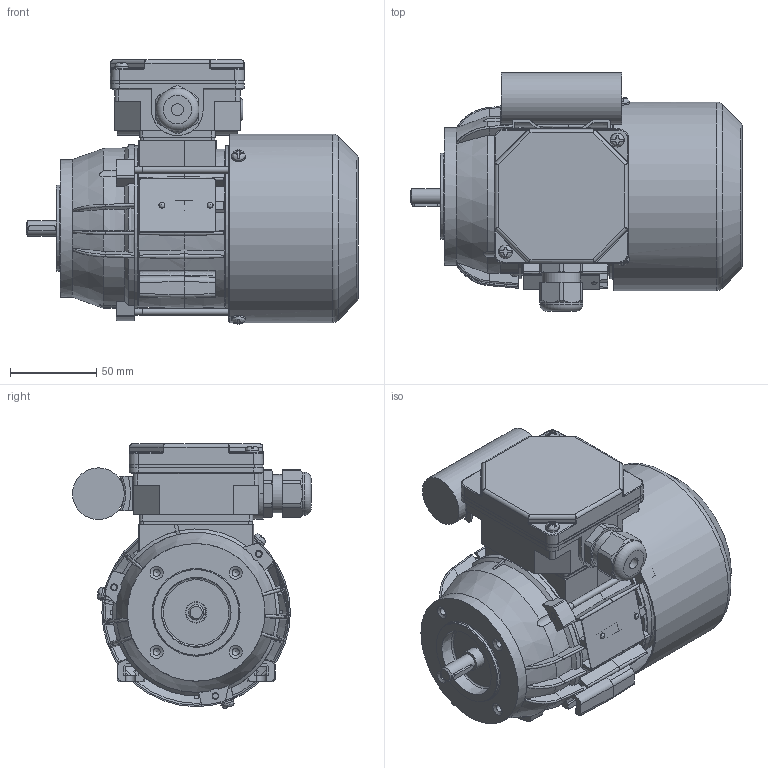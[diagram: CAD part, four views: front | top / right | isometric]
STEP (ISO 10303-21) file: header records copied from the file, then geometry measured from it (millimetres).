
FILE_DESCRIPTION( ( 'Unknown' ), '1' );
FILE_NAME( 'G:/Poczta Tk-1/STP/w.m.56/SEh56/SE(M)Kh56-B2.stp', 'Unknown', ( 'K. Szlosek' ), ( 'BESEL S.A.' ), 'PSStep 17.0.49', 'Unknown', ' ' );
FILE_SCHEMA( ( 'AUTOMOTIVE_DESIGN { 1 0 10303 214 1 1 1 1 }' ) );
Length unit declared in the file: millimetre
Products named in the file (31): Assem1; K4-2320 Uszczelka nr 1 Sh71,80; K3-9987 kadłub ze stojanem Sh56-B; K3-2193 Tarcza łożyskowa P Sg56-2..; K3-9990 wał Sh56-B; K2-0860 Pokrywka skrzynki zaciskowej; Wpust A3x3x16; K3-2977 Osłona przewietrznika Sg56; K4-2820 Uszczelka nr 2 Sh71,80; Wkręt samogwintujący M4x8; Wkręt samogwintujący M4x16; K2-0879 Przewietrznik Sg56; Nitokołek A 2x6; K3-9440 Podstawa  skrzynki zaciskowej SEhR71-D; K4-0898 Tulejka uszczelniająca; K3-1974 Uchwyt kondensatora (mały); Kondensator bb 8uF; K1-0533 Tarcza kołnierzowa B14_2 SKg56-..2; Śruba ściągająca E_M4x75; Tabliczka znamionowa 32x44; Dławnica M20x1,5; Łożysko 6201
Assembly tree (46 placements, depth 2):
  Assem1
    K4-2320 Uszczelka nr 1 Sh71,80
    K3-9987 kadłub ze stojanem Sh56-B
    K3-2193 Tarcza łożyskowa P Sg56-2..
    K3-9990 wał Sh56-B
    K2-0860 Pokrywka skrzynki zaciskowej
    Wpust A3x3x16
    K3-2977 Osłona przewietrznika Sg56
    K4-2820 Uszczelka nr 2 Sh71,80
    Wkręt samogwintujący M4x8  x3
    Wkręt samogwintujący M4x16  x2
    K2-0879 Przewietrznik Sg56
    Nitokołek A 2x6  x2
    K3-9440 Podstawa  skrzynki zaciskowej SEhR71-D
    K4-0898 Tulejka uszczelniająca
    K3-1974 Uchwyt kondensatora (mały)
    Kondensator bb 8uF
    K1-0533 Tarcza kołnierzowa B14_2 SKg56-..2
    Śruba ściągająca E_M4x75  x3
    Tabliczka znamionowa 32x44
    Dławnica M20x1,5
    Łożysko 6201  x2
    Łożysko 6201  x2
    Łożysko 6201  x2
    Łożysko 6201  x2
    Łożysko 6201  x2
    Łożysko 6201  x2
    Łożysko 6201  x2
    Łożysko 6201  x2
    Łożysko 6201  x2
    Łożysko 6201  x2
Bounding box: 193 x 138.82 x 153.72 mm (x, y, z)
Volume: 440399 mm3; surface area: 306239 mm2
Topology: 46 solids, 62 shells, 1829 faces, 4954 edges, 3208 vertices
Faces by surface type: plane 947, cylinder 522, cone 132, torus 100, bspline 94, sphere 34
Full cylindrical faces by diameter (mm): 2 x2, 2.4 x2, 3 x1, 3.242 x3, 3.5 x2, 3.7 x10, 4 x8, 4.134 x4, 4.5 x4, 4.6 x1, 4.8 x4, 5 x4, 6.5 x1, 7 x4, 8 x6, 9 x1, 10 x2, 10.9 x1, 11 x1, 11.5 x1, 11.8 x2, 12 x4, 12.4 x2, 15.5 x1, 16 x1, 16.1 x1, 17 x2, 18.38 x1, 18.5 x1, 18.52 x4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
Entity records: 74876 total; most frequent: CARTESIAN_POINT 20688, ORIENTED_EDGE 8516, DIRECTION 8448, EDGE_CURVE 4258, AXIS2_PLACEMENT_3D 3149, VERTEX_POINT 2896, LINE 2150, VECTOR 2150
